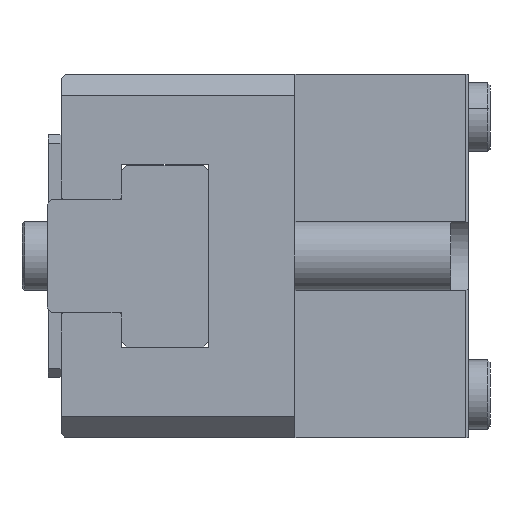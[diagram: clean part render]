
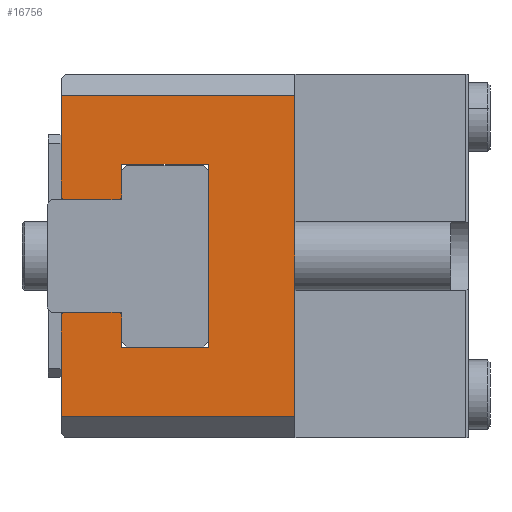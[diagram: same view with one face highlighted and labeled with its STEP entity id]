
A CAD part, left-side view. The second image highlights one B-rep face of the part: STEP entity #16756.
In plain terms, the highlighted planar face has unit normal (-1, 0, 0).
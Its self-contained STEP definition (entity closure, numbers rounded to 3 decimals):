
#1055 = PLANE ( 'NONE',  #30752 ) ;
#1343 = CARTESIAN_POINT ( 'NONE',  ( -40., 47., 18.5 ) ) ;
#2108 = EDGE_CURVE ( 'NONE', #46440, #23739, #23549, .T. ) ;
#2645 = VECTOR ( 'NONE', #33681, 1000. ) ;
#3394 = CARTESIAN_POINT ( 'NONE',  ( -40., 40.3, 6.5 ) ) ;
#3466 = EDGE_CURVE ( 'NONE', #24811, #12000, #16077, .T. ) ;
#3592 = VECTOR ( 'NONE', #24150, 1000. ) ;
#3610 = LINE ( 'NONE', #39944, #23262 ) ;
#5515 = ORIENTED_EDGE ( 'NONE', *, *, #49283, .F. ) ;
#5640 = LINE ( 'NONE', #50242, #36394 ) ;
#5867 = VERTEX_POINT ( 'NONE', #14500 ) ;
#6426 = CARTESIAN_POINT ( 'NONE',  ( -40., 40., 10.6 ) ) ;
#6995 = EDGE_CURVE ( 'NONE', #37996, #19872, #17000, .T. ) ;
#7230 = CARTESIAN_POINT ( 'NONE',  ( -40., 46.7, 6.5 ) ) ;
#7272 = CARTESIAN_POINT ( 'NONE',  ( -40., 46.7, -6.5 ) ) ;
#8137 = CARTESIAN_POINT ( 'NONE',  ( -40., 40., -10.6 ) ) ;
#8208 = ORIENTED_EDGE ( 'NONE', *, *, #2108, .T. ) ;
#8643 = CARTESIAN_POINT ( 'NONE',  ( -40., 0., 18.5 ) ) ;
#9559 = ORIENTED_EDGE ( 'NONE', *, *, #40137, .F. ) ;
#9802 = VERTEX_POINT ( 'NONE', #1343 ) ;
#10963 = VECTOR ( 'NONE', #13592, 1000. ) ;
#11797 = VECTOR ( 'NONE', #43166, 1000. ) ;
#12000 = VERTEX_POINT ( 'NONE', #16247 ) ;
#12298 = VERTEX_POINT ( 'NONE', #3394 ) ;
#12611 = ORIENTED_EDGE ( 'NONE', *, *, #18751, .F. ) ;
#12705 = VERTEX_POINT ( 'NONE', #7230 ) ;
#12732 = VERTEX_POINT ( 'NONE', #42635 ) ;
#12780 = LINE ( 'NONE', #8643, #3592 ) ;
#13592 = DIRECTION ( 'NONE',  ( 0., 0., 1. ) ) ;
#13633 = EDGE_CURVE ( 'NONE', #12298, #5867, #38839, .T. ) ;
#13741 = CARTESIAN_POINT ( 'NONE',  ( -40., 46.7, 6.5 ) ) ;
#14500 = CARTESIAN_POINT ( 'NONE',  ( -40., 40., 6.8 ) ) ;
#14876 = ORIENTED_EDGE ( 'NONE', *, *, #6995, .F. ) ;
#14938 = CARTESIAN_POINT ( 'NONE',  ( -40., 46.7, -6.5 ) ) ;
#14981 = CARTESIAN_POINT ( 'NONE',  ( -40., 47., 21. ) ) ;
#15726 = CARTESIAN_POINT ( 'NONE',  ( -40., 47., -6.8 ) ) ;
#16032 = VECTOR ( 'NONE', #42452, 1000. ) ;
#16077 = LINE ( 'NONE', #18773, #35782 ) ;
#16247 = CARTESIAN_POINT ( 'NONE',  ( -40., 30., -10.6 ) ) ;
#16670 = VECTOR ( 'NONE', #43043, 1000. ) ;
#16756 = ADVANCED_FACE ( 'NONE', ( #38693 ), #1055, .F. ) ;
#16954 = VECTOR ( 'NONE', #49416, 1000. ) ;
#17000 = LINE ( 'NONE', #32593, #37936 ) ;
#17491 = VECTOR ( 'NONE', #46460, 1000. ) ;
#17680 = DIRECTION ( 'NONE',  ( 0., 0.707, 0.707 ) ) ;
#17716 = EDGE_CURVE ( 'NONE', #46440, #24811, #44429, .T. ) ;
#18062 = ORIENTED_EDGE ( 'NONE', *, *, #27539, .F. ) ;
#18650 = VERTEX_POINT ( 'NONE', #50567 ) ;
#18712 = LINE ( 'NONE', #14981, #17491 ) ;
#18751 = EDGE_CURVE ( 'NONE', #12298, #12705, #43146, .T. ) ;
#18773 = CARTESIAN_POINT ( 'NONE',  ( -40., 20., -10.6 ) ) ;
#19002 = VERTEX_POINT ( 'NONE', #41411 ) ;
#19752 = CARTESIAN_POINT ( 'NONE',  ( -40., 40., -6.8 ) ) ;
#19841 = EDGE_CURVE ( 'NONE', #12705, #12732, #22190, .T. ) ;
#19872 = VERTEX_POINT ( 'NONE', #45199 ) ;
#20730 = DIRECTION ( 'NONE',  ( 0., 0., -1. ) ) ;
#21422 = LINE ( 'NONE', #48496, #10963 ) ;
#21864 = CARTESIAN_POINT ( 'NONE',  ( -40., 40.3, -6.5 ) ) ;
#21979 = EDGE_CURVE ( 'NONE', #9802, #12732, #47311, .T. ) ;
#22190 = LINE ( 'NONE', #13741, #30190 ) ;
#22742 = DIRECTION ( 'NONE',  ( 0., 1., 0. ) ) ;
#23262 = VECTOR ( 'NONE', #43885, 1000. ) ;
#23549 = LINE ( 'NONE', #26208, #26003 ) ;
#23620 = EDGE_CURVE ( 'NONE', #18650, #9802, #12780, .T. ) ;
#23650 = CARTESIAN_POINT ( 'NONE',  ( -40., 47., 21. ) ) ;
#23739 = VERTEX_POINT ( 'NONE', #21864 ) ;
#24150 = DIRECTION ( 'NONE',  ( 0., 1., 0. ) ) ;
#24554 = CARTESIAN_POINT ( 'NONE',  ( -40., 20., 21. ) ) ;
#24811 = VERTEX_POINT ( 'NONE', #8137 ) ;
#25454 = EDGE_CURVE ( 'NONE', #45157, #23739, #30544, .T. ) ;
#25605 = CARTESIAN_POINT ( 'NONE',  ( -40., 20., -6.5 ) ) ;
#25942 = EDGE_CURVE ( 'NONE', #37996, #18650, #28657, .T. ) ;
#26003 = VECTOR ( 'NONE', #50084, 1000. ) ;
#26208 = CARTESIAN_POINT ( 'NONE',  ( -40., 40., -6.8 ) ) ;
#26382 = DIRECTION ( 'NONE',  ( 0., -1., 0. ) ) ;
#26754 = ORIENTED_EDGE ( 'NONE', *, *, #19841, .F. ) ;
#27539 = EDGE_CURVE ( 'NONE', #19872, #34852, #18712, .T. ) ;
#27630 = VECTOR ( 'NONE', #50629, 1000. ) ;
#27791 = CARTESIAN_POINT ( 'NONE',  ( -40., 20., -18.5 ) ) ;
#28657 = LINE ( 'NONE', #45470, #16954 ) ;
#29565 = DIRECTION ( 'NONE',  ( 0., -1., 0. ) ) ;
#29725 = CARTESIAN_POINT ( 'NONE',  ( -40., 40., 21. ) ) ;
#30190 = VECTOR ( 'NONE', #17680, 1000. ) ;
#30544 = LINE ( 'NONE', #25605, #38534 ) ;
#30752 = AXIS2_PLACEMENT_3D ( 'NONE', #24554, #44306, #20730 ) ;
#31501 = ORIENTED_EDGE ( 'NONE', *, *, #23620, .T. ) ;
#31634 = ORIENTED_EDGE ( 'NONE', *, *, #25454, .F. ) ;
#32593 = CARTESIAN_POINT ( 'NONE',  ( -40., 20., -18.5 ) ) ;
#32608 = ORIENTED_EDGE ( 'NONE', *, *, #43905, .F. ) ;
#32750 = DIRECTION ( 'NONE',  ( 0., 1., 0. ) ) ;
#33681 = DIRECTION ( 'NONE',  ( 0., 0., -1. ) ) ;
#34852 = VERTEX_POINT ( 'NONE', #15726 ) ;
#35050 = ORIENTED_EDGE ( 'NONE', *, *, #17716, .F. ) ;
#35631 = ORIENTED_EDGE ( 'NONE', *, *, #3466, .F. ) ;
#35737 = LINE ( 'NONE', #14938, #16032 ) ;
#35782 = VECTOR ( 'NONE', #26382, 1000. ) ;
#36394 = VECTOR ( 'NONE', #22742, 1000. ) ;
#37936 = VECTOR ( 'NONE', #32750, 1000. ) ;
#37996 = VERTEX_POINT ( 'NONE', #27791 ) ;
#38534 = VECTOR ( 'NONE', #29565, 1000. ) ;
#38693 = FACE_OUTER_BOUND ( 'NONE', #49132, .T. ) ;
#38839 = LINE ( 'NONE', #46840, #16670 ) ;
#39086 = ORIENTED_EDGE ( 'NONE', *, *, #13633, .T. ) ;
#39419 = CARTESIAN_POINT ( 'NONE',  ( -40., 20., 6.5 ) ) ;
#39944 = CARTESIAN_POINT ( 'NONE',  ( -40., 40., 21. ) ) ;
#40137 = EDGE_CURVE ( 'NONE', #19002, #44978, #5640, .T. ) ;
#41411 = CARTESIAN_POINT ( 'NONE',  ( -40., 30., 10.6 ) ) ;
#42452 = DIRECTION ( 'NONE',  ( 0., 0.707, -0.707 ) ) ;
#42635 = CARTESIAN_POINT ( 'NONE',  ( -40., 47., 6.8 ) ) ;
#43043 = DIRECTION ( 'NONE',  ( 0., -0.707, 0.707 ) ) ;
#43146 = LINE ( 'NONE', #39419, #11797 ) ;
#43166 = DIRECTION ( 'NONE',  ( 0., 1., 0. ) ) ;
#43885 = DIRECTION ( 'NONE',  ( 0., 0., -1. ) ) ;
#43905 = EDGE_CURVE ( 'NONE', #12000, #19002, #21422, .T. ) ;
#43991 = ORIENTED_EDGE ( 'NONE', *, *, #25942, .T. ) ;
#44306 = DIRECTION ( 'NONE',  ( 1., 0., 0. ) ) ;
#44429 = LINE ( 'NONE', #29725, #2645 ) ;
#44892 = ORIENTED_EDGE ( 'NONE', *, *, #45593, .T. ) ;
#44978 = VERTEX_POINT ( 'NONE', #6426 ) ;
#45157 = VERTEX_POINT ( 'NONE', #7272 ) ;
#45199 = CARTESIAN_POINT ( 'NONE',  ( -40., 47., -18.5 ) ) ;
#45470 = CARTESIAN_POINT ( 'NONE',  ( -40., 20., 21. ) ) ;
#45593 = EDGE_CURVE ( 'NONE', #45157, #34852, #35737, .T. ) ;
#46440 = VERTEX_POINT ( 'NONE', #19752 ) ;
#46460 = DIRECTION ( 'NONE',  ( 0., 0., 1. ) ) ;
#46840 = CARTESIAN_POINT ( 'NONE',  ( -40., 40., 6.8 ) ) ;
#47311 = LINE ( 'NONE', #23650, #27630 ) ;
#48496 = CARTESIAN_POINT ( 'NONE',  ( -40., 30., 21. ) ) ;
#49132 = EDGE_LOOP ( 'NONE', ( #44892, #18062, #14876, #43991, #31501, #50491, #26754, #12611, #39086, #5515, #9559, #32608, #35631, #35050, #8208, #31634 ) ) ;
#49283 = EDGE_CURVE ( 'NONE', #44978, #5867, #3610, .T. ) ;
#49416 = DIRECTION ( 'NONE',  ( 0., 0., 1. ) ) ;
#50084 = DIRECTION ( 'NONE',  ( 0., 0.707, 0.707 ) ) ;
#50242 = CARTESIAN_POINT ( 'NONE',  ( -40., 20., 10.6 ) ) ;
#50491 = ORIENTED_EDGE ( 'NONE', *, *, #21979, .T. ) ;
#50567 = CARTESIAN_POINT ( 'NONE',  ( -40., 20., 18.5 ) ) ;
#50629 = DIRECTION ( 'NONE',  ( 0., 0., -1. ) ) ;
